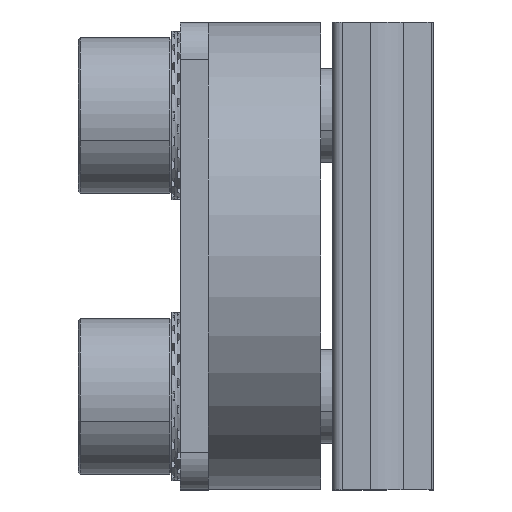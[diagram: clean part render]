
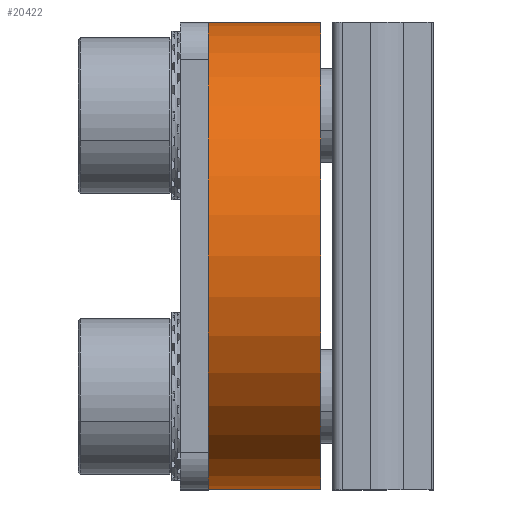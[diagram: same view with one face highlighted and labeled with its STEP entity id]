
A CAD part, left-side view. The second image highlights one B-rep face of the part: STEP entity #20422.
In plain terms, the highlighted cylindrical face has radius 12.5 mm (diameter 25 mm), a partial arc.
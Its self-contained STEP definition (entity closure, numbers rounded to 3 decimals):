
#173 = DIRECTION ( 'NONE',  ( 0., 0., -1. ) ) ;
#387 = AXIS2_PLACEMENT_3D ( 'NONE', #18022, #7899, #19725 ) ;
#556 = ORIENTED_EDGE ( 'NONE', *, *, #3545, .T. ) ;
#1784 = DIRECTION ( 'NONE',  ( 0., -1., 0. ) ) ;
#1818 = EDGE_LOOP ( 'NONE', ( #16974, #14499, #17715, #556 ) ) ;
#2782 = FACE_OUTER_BOUND ( 'NONE', #1818, .T. ) ;
#3545 = EDGE_CURVE ( 'NONE', #21152, #21957, #10697, .T. ) ;
#3724 = DIRECTION ( 'NONE',  ( 0., 1., 0. ) ) ;
#4320 = AXIS2_PLACEMENT_3D ( 'NONE', #13902, #3724, #15596 ) ;
#5403 = VECTOR ( 'NONE', #18071, 1000. ) ;
#5678 = EDGE_CURVE ( 'NONE', #21957, #12040, #7342, .T. ) ;
#6841 = CIRCLE ( 'NONE', #387, 12.5 ) ;
#6871 = CARTESIAN_POINT ( 'NONE',  ( 0., 3., -12.5 ) ) ;
#7342 = CIRCLE ( 'NONE', #4320, 12.5 ) ;
#7899 = DIRECTION ( 'NONE',  ( 0., 1., 0. ) ) ;
#9722 = VERTEX_POINT ( 'NONE', #13805 ) ;
#9927 = LINE ( 'NONE', #12931, #5403 ) ;
#10697 = LINE ( 'NONE', #6871, #18685 ) ;
#11507 = AXIS2_PLACEMENT_3D ( 'NONE', #11937, #1784, #173 ) ;
#11937 = CARTESIAN_POINT ( 'NONE',  ( 0., 3., 0. ) ) ;
#12040 = VERTEX_POINT ( 'NONE', #16482 ) ;
#12931 = CARTESIAN_POINT ( 'NONE',  ( 0., 3., 12.5 ) ) ;
#13805 = CARTESIAN_POINT ( 'NONE',  ( 0., 3., 12.5 ) ) ;
#13902 = CARTESIAN_POINT ( 'NONE',  ( 0., -3., 0. ) ) ;
#14499 = ORIENTED_EDGE ( 'NONE', *, *, #18229, .F. ) ;
#15344 = DIRECTION ( 'NONE',  ( 0., -1., 0. ) ) ;
#15596 = DIRECTION ( 'NONE',  ( 0., 0., 1. ) ) ;
#16166 = CARTESIAN_POINT ( 'NONE',  ( 0., -3., -12.5 ) ) ;
#16482 = CARTESIAN_POINT ( 'NONE',  ( 0., -3., 12.5 ) ) ;
#16974 = ORIENTED_EDGE ( 'NONE', *, *, #5678, .T. ) ;
#17573 = EDGE_CURVE ( 'NONE', #21152, #9722, #6841, .T. ) ;
#17715 = ORIENTED_EDGE ( 'NONE', *, *, #17573, .F. ) ;
#18022 = CARTESIAN_POINT ( 'NONE',  ( 0., 3., 0. ) ) ;
#18071 = DIRECTION ( 'NONE',  ( 0., -1., 0. ) ) ;
#18229 = EDGE_CURVE ( 'NONE', #9722, #12040, #9927, .T. ) ;
#18685 = VECTOR ( 'NONE', #15344, 1000. ) ;
#18741 = CYLINDRICAL_SURFACE ( 'NONE', #11507, 12.5 ) ;
#18817 = CARTESIAN_POINT ( 'NONE',  ( 0., 3., -12.5 ) ) ;
#19725 = DIRECTION ( 'NONE',  ( 0., 0., 1. ) ) ;
#20422 = ADVANCED_FACE ( 'NONE', ( #2782 ), #18741, .T. ) ;
#21152 = VERTEX_POINT ( 'NONE', #18817 ) ;
#21957 = VERTEX_POINT ( 'NONE', #16166 ) ;
